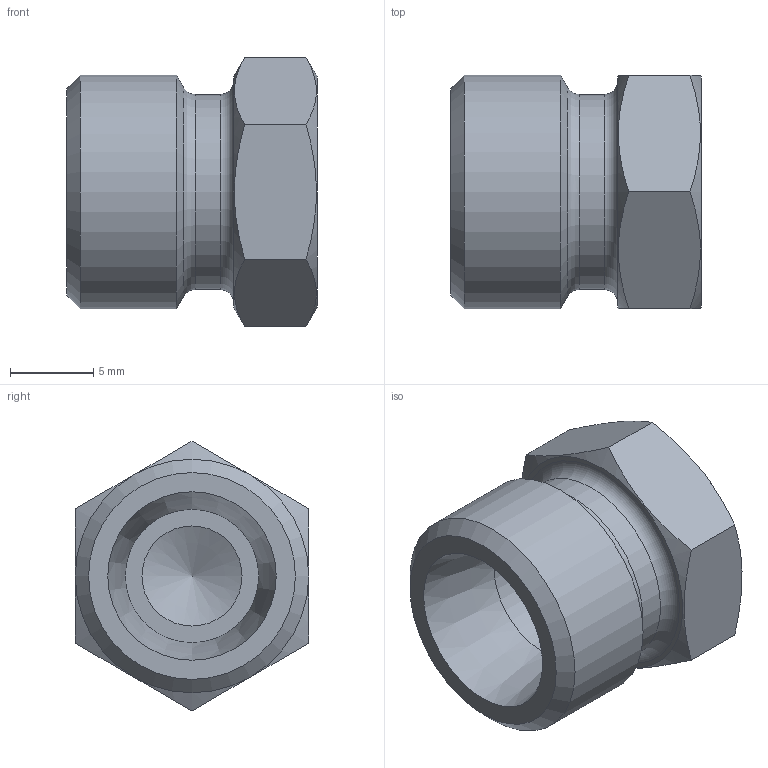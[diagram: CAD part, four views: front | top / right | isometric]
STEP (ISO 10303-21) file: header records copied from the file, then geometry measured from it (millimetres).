
FILE_DESCRIPTION( ( 'Unknown' ), '1' );
FILE_NAME( 'C:/Users/p.nanko/Desktop/3D SR/XROV08L.stp', 'Unknown', ( 'Peter Nanko' ), ( 'Armaturen Arndt' ), 'PSStep 14.0', 'Solid Edge ST4', ' ' );
FILE_SCHEMA( ( 'AUTOMOTIVE_DESIGN { 1 0 10303 214 1 1 1 1 }' ) );
Length unit declared in the file: millimetre
Products named in the file (1): 1
Bounding box: 15 x 14 x 16.17 mm (x, y, z)
Volume: 1680.3 mm3; surface area: 1260.9 mm2
Topology: 1 solids, 1 shells, 22 faces, 48 edges, 30 vertices
Faces by surface type: plane 10, cone 6, cylinder 4, torus 2
Full cylindrical faces by diameter (mm): 6 x1, 8 x1, 11.7 x1, 14 x1
Entity records: 798 total; most frequent: CARTESIAN_POINT 206, DIRECTION 80, ORIENTED_EDGE 64, AXIS2_PLACEMENT_3D 37, EDGE_LOOP 36, EDGE_CURVE 32, FACE_OUTER_BOUND 28, VERTEX_POINT 27
